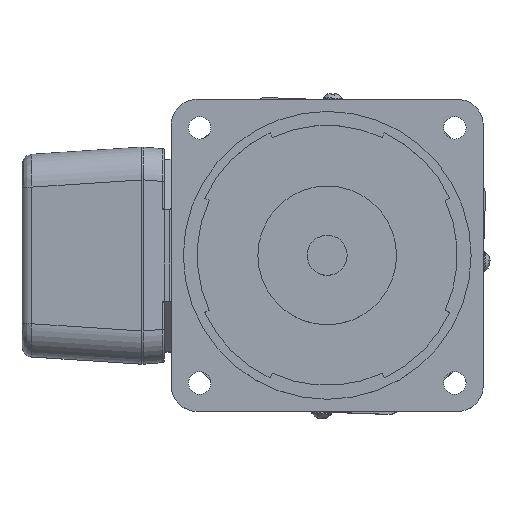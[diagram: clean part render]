
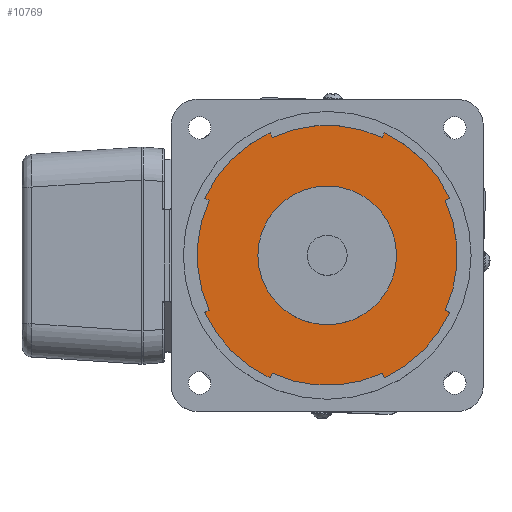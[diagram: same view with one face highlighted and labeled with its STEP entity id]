
A CAD part, top view. The second image highlights one B-rep face of the part: STEP entity #10769.
In plain terms, the highlighted planar face has unit normal (0, 0, 1).
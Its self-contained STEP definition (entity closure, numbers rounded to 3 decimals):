
#10283=CARTESIAN_POINT('',(16.482,-35.346,-3.));
#10284=VERTEX_POINT('',#10283);
#10285=CARTESIAN_POINT('',(35.346,-16.482,-3.));
#10286=VERTEX_POINT('',#10285);
#10287=CARTESIAN_POINT('',(0.,0.,-3.));
#10288=DIRECTION('',(0.0,0.0,1.0));
#10289=DIRECTION('',(-1.0,0.0,0.0));
#10290=AXIS2_PLACEMENT_3D('',#10287,#10288,#10289);
#10291=CIRCLE('',#10290,39.0);
#10292=EDGE_CURVE('',#10284,#10286,#10291,.T.);
#10325=CARTESIAN_POINT('',(15.848,-33.987,-3.));
#10326=VERTEX_POINT('',#10325);
#10342=CARTESIAN_POINT('',(15.848,-33.987,-3.));
#10343=DIRECTION('',(0.423,-0.906,0.0));
#10344=VECTOR('',#10343,1.5);
#10345=LINE('',#10342,#10344);
#10346=EDGE_CURVE('',#10326,#10284,#10345,.T.);
#10358=CARTESIAN_POINT('',(15.848,33.987,-3.));
#10359=VERTEX_POINT('',#10358);
#10366=CARTESIAN_POINT('',(16.482,35.346,-3.));
#10367=VERTEX_POINT('',#10366);
#10368=CARTESIAN_POINT('',(16.482,35.346,-3.));
#10369=DIRECTION('',(-0.423,-0.906,0.));
#10370=VECTOR('',#10369,1.5);
#10371=LINE('',#10368,#10370);
#10372=EDGE_CURVE('',#10367,#10359,#10371,.T.);
#10396=CARTESIAN_POINT('',(35.346,16.482,-3.));
#10397=VERTEX_POINT('',#10396);
#10398=CARTESIAN_POINT('',(0.,0.,-3.));
#10399=DIRECTION('',(0.0,0.0,1.0));
#10400=DIRECTION('',(0.0,-1.0,0.0));
#10401=AXIS2_PLACEMENT_3D('',#10398,#10399,#10400);
#10402=CIRCLE('',#10401,39.0);
#10403=EDGE_CURVE('',#10397,#10367,#10402,.T.);
#10429=CARTESIAN_POINT('',(33.987,15.848,-3.));
#10430=VERTEX_POINT('',#10429);
#10446=CARTESIAN_POINT('',(33.987,15.848,-3.));
#10447=DIRECTION('',(0.906,0.423,0.));
#10448=VECTOR('',#10447,1.5);
#10449=LINE('',#10446,#10448);
#10450=EDGE_CURVE('',#10430,#10397,#10449,.T.);
#10462=CARTESIAN_POINT('',(-33.987,15.848,-3.));
#10463=VERTEX_POINT('',#10462);
#10470=CARTESIAN_POINT('',(-35.346,16.482,-3.));
#10471=VERTEX_POINT('',#10470);
#10472=CARTESIAN_POINT('',(-35.346,16.482,-3.));
#10473=DIRECTION('',(0.906,-0.423,0.));
#10474=VECTOR('',#10473,1.5);
#10475=LINE('',#10472,#10474);
#10476=EDGE_CURVE('',#10471,#10463,#10475,.T.);
#10500=CARTESIAN_POINT('',(-16.482,35.346,-3.));
#10501=VERTEX_POINT('',#10500);
#10502=CARTESIAN_POINT('',(0.,0.,-3.));
#10503=DIRECTION('',(0.0,0.0,1.0));
#10504=DIRECTION('',(1.0,0.0,0.0));
#10505=AXIS2_PLACEMENT_3D('',#10502,#10503,#10504);
#10506=CIRCLE('',#10505,39.0);
#10507=EDGE_CURVE('',#10501,#10471,#10506,.T.);
#10535=CARTESIAN_POINT('',(-15.848,-33.987,-3.));
#10536=VERTEX_POINT('',#10535);
#10543=CARTESIAN_POINT('',(-16.482,-35.346,-3.));
#10544=VERTEX_POINT('',#10543);
#10545=CARTESIAN_POINT('',(-16.482,-35.346,-3.));
#10546=DIRECTION('',(0.423,0.906,0.));
#10547=VECTOR('',#10546,1.5);
#10548=LINE('',#10545,#10547);
#10549=EDGE_CURVE('',#10544,#10536,#10548,.T.);
#10573=CARTESIAN_POINT('',(-35.346,-16.482,-3.));
#10574=VERTEX_POINT('',#10573);
#10575=CARTESIAN_POINT('',(0.,0.,-3.));
#10576=DIRECTION('',(0.0,0.0,1.0));
#10577=DIRECTION('',(0.0,1.0,0.0));
#10578=AXIS2_PLACEMENT_3D('',#10575,#10576,#10577);
#10579=CIRCLE('',#10578,39.0);
#10580=EDGE_CURVE('',#10574,#10544,#10579,.T.);
#10678=CARTESIAN_POINT('',(-15.848,33.987,-3.));
#10679=VERTEX_POINT('',#10678);
#10688=CARTESIAN_POINT('',(-15.848,33.987,-3.));
#10689=DIRECTION('',(-0.423,0.906,0.0));
#10690=VECTOR('',#10689,1.5);
#10691=LINE('',#10688,#10690);
#10692=EDGE_CURVE('',#10679,#10501,#10691,.T.);
#10697=CARTESIAN_POINT('',(-25.468,25.468,-3.));
#10698=DIRECTION('',(0.0,0.0,1.0));
#10699=DIRECTION('',(1.0,0.0,0.0));
#10700=AXIS2_PLACEMENT_3D('',#10697,#10698,#10699);
#10701=PLANE('',#10700);
#10702=ORIENTED_EDGE('',*,*,#10692,.T.);
#10703=ORIENTED_EDGE('',*,*,#10507,.T.);
#10704=ORIENTED_EDGE('',*,*,#10476,.T.);
#10705=CARTESIAN_POINT('',(-33.987,-15.848,-3.));
#10706=VERTEX_POINT('',#10705);
#10707=CARTESIAN_POINT('',(0.,0.,-3.));
#10708=DIRECTION('',(0.0,0.0,1.0));
#10709=DIRECTION('',(1.0,0.0,0.0));
#10710=AXIS2_PLACEMENT_3D('',#10707,#10708,#10709);
#10711=CIRCLE('',#10710,37.5);
#10712=EDGE_CURVE('',#10463,#10706,#10711,.T.);
#10713=ORIENTED_EDGE('',*,*,#10712,.T.);
#10714=CARTESIAN_POINT('',(-33.987,-15.848,-3.));
#10715=DIRECTION('',(-0.906,-0.423,0.));
#10716=VECTOR('',#10715,1.5);
#10717=LINE('',#10714,#10716);
#10718=EDGE_CURVE('',#10706,#10574,#10717,.T.);
#10719=ORIENTED_EDGE('',*,*,#10718,.T.);
#10720=ORIENTED_EDGE('',*,*,#10580,.T.);
#10721=ORIENTED_EDGE('',*,*,#10549,.T.);
#10722=CARTESIAN_POINT('',(0.,0.,-3.));
#10723=DIRECTION('',(0.0,0.0,1.0));
#10724=DIRECTION('',(1.0,0.0,0.0));
#10725=AXIS2_PLACEMENT_3D('',#10722,#10723,#10724);
#10726=CIRCLE('',#10725,37.5);
#10727=EDGE_CURVE('',#10536,#10326,#10726,.T.);
#10728=ORIENTED_EDGE('',*,*,#10727,.T.);
#10729=ORIENTED_EDGE('',*,*,#10346,.T.);
#10730=ORIENTED_EDGE('',*,*,#10292,.T.);
#10731=CARTESIAN_POINT('',(33.987,-15.848,-3.));
#10732=VERTEX_POINT('',#10731);
#10733=CARTESIAN_POINT('',(35.346,-16.482,-3.));
#10734=DIRECTION('',(-0.906,0.423,0.));
#10735=VECTOR('',#10734,1.5);
#10736=LINE('',#10733,#10735);
#10737=EDGE_CURVE('',#10286,#10732,#10736,.T.);
#10738=ORIENTED_EDGE('',*,*,#10737,.T.);
#10739=CARTESIAN_POINT('',(0.,0.,-3.));
#10740=DIRECTION('',(0.0,0.0,1.0));
#10741=DIRECTION('',(1.0,0.0,0.0));
#10742=AXIS2_PLACEMENT_3D('',#10739,#10740,#10741);
#10743=CIRCLE('',#10742,37.5);
#10744=EDGE_CURVE('',#10732,#10430,#10743,.T.);
#10745=ORIENTED_EDGE('',*,*,#10744,.T.);
#10746=ORIENTED_EDGE('',*,*,#10450,.T.);
#10747=ORIENTED_EDGE('',*,*,#10403,.T.);
#10748=ORIENTED_EDGE('',*,*,#10372,.T.);
#10749=CARTESIAN_POINT('',(0.,0.,-3.));
#10750=DIRECTION('',(0.0,0.0,1.0));
#10751=DIRECTION('',(1.0,0.0,0.0));
#10752=AXIS2_PLACEMENT_3D('',#10749,#10750,#10751);
#10753=CIRCLE('',#10752,37.5);
#10754=EDGE_CURVE('',#10359,#10679,#10753,.T.);
#10755=ORIENTED_EDGE('',*,*,#10754,.T.);
#10756=EDGE_LOOP('',(#10702,#10703,#10704,#10713,#10719,#10720,#10721,#10728,#10729,#10730,#10738,#10745,#10746,#10747,#10748,#10755));
#10757=FACE_OUTER_BOUND('',#10756,.T.);
#10758=CARTESIAN_POINT('',(-20.,0.,-3.));
#10759=VERTEX_POINT('',#10758);
#10760=CARTESIAN_POINT('',(0.,0.,-3.));
#10761=DIRECTION('',(0.0,0.0,-1.0));
#10762=DIRECTION('',(1.0,0.0,0.0));
#10763=AXIS2_PLACEMENT_3D('',#10760,#10761,#10762);
#10764=CIRCLE('',#10763,20.0);
#10765=EDGE_CURVE('',#10759,#10759,#10764,.T.);
#10766=ORIENTED_EDGE('',*,*,#10765,.T.);
#10767=EDGE_LOOP('',(#10766));
#10768=FACE_BOUND('',#10767,.T.);
#10769=ADVANCED_FACE('',(#10757,#10768),#10701,.T.);
